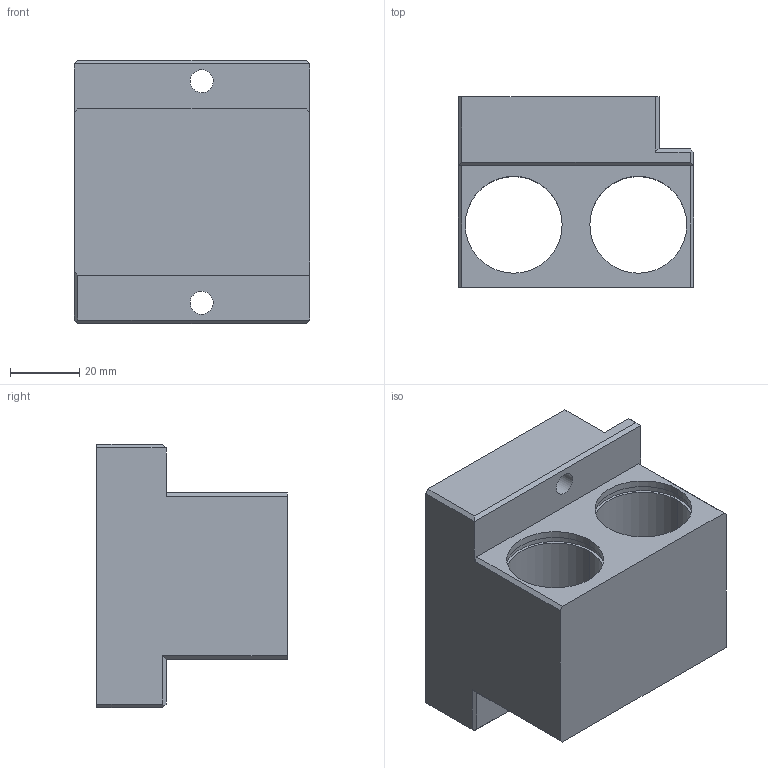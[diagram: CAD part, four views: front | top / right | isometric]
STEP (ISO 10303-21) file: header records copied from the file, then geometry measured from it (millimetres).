
FILE_DESCRIPTION(('CATIA V5 STEP Exchange'),'2;1');
FILE_NAME('G:\够快云库\系统集成开发部\1.部门成员\孙国\工装\手动插管\STP\V3\GZ-SDCG10_V3 滑块.stp','2021-01-29T01:01:04+00:00',('none'),('none'),'CATIA Version 5 Release 21 GA (IN-10)','CATIA V5 STEP AP214','none');
FILE_SCHEMA(('AUTOMOTIVE_DESIGN { 1 0 10303 214 1 1 1 1 }'));
Length unit declared in the file: millimetre
Products named in the file (1): 滑块
Bounding box: 68 x 55 x 76 mm (x, y, z)
Volume: 144907.4 mm3; surface area: 30957.8 mm2
Topology: 1 solids, 1 shells, 59 faces, 141 edges, 92 vertices
Faces by surface type: plane 35, cylinder 24
Entity records: 1585 total; most frequent: CARTESIAN_POINT 287, ORIENTED_EDGE 282, DIRECTION 202, EDGE_CURVE 141, VERTEX_POINT 92, AXIS2_PLACEMENT_3D 87, VECTOR 78, LINE 78
